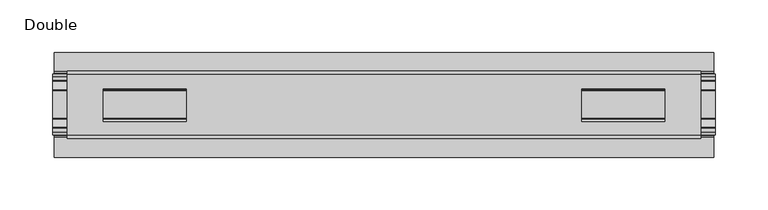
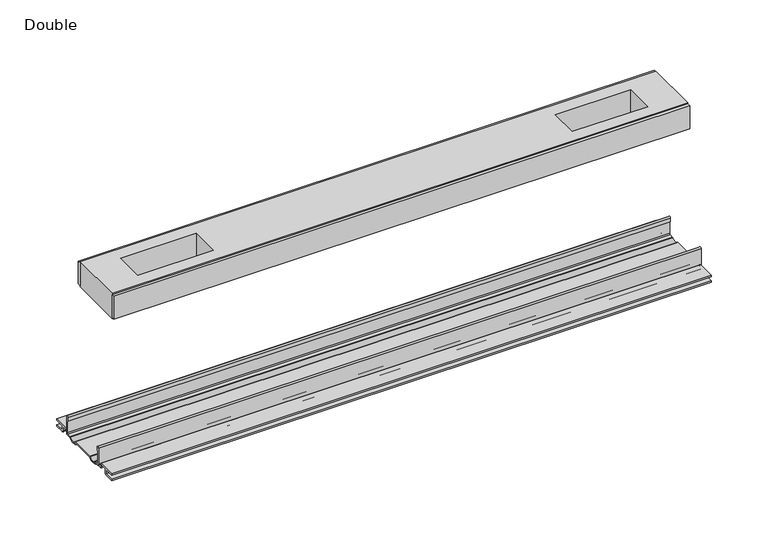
"""IFC4 building model written with IfcOpenShell, lengths in millimetres: proxy geometry, Frame-Teknion-FHCRA-Horizontal_Rail-R2022 : Double."""

from ifc_helpers import new_model, si_unit, point, frame, frame_2d, origin, place, context, project, spatial, polyline, circle_curve, trimmed, segment, composite_curve, outline, extrude, source, transform, mapped, element, save


def double_d49f8474(model_context):
    return source(origin(), model_context, "Body", "SweptSolid", [
        extrude(outline(polyline([(301.5615091, -29.0068005), (301.5615091, -32.1817997), (-301.5615091, -32.1817997), (-301.5615091, -29.0068005), (301.5615091, -29.0068005)])), frame((0.0, 0.0, 149.8401622), z_axis=(0.0, 0.0, 1.0), x_axis=(1.0, 0.0, 0.0)), (0.0, 0.0, 1.0), 25.3999939),
        extrude(outline(polyline([(301.5615091, 32.1817997), (301.5615091, 29.0068005), (-301.5615091, 29.0068005), (-301.5615091, 32.1817997), (301.5615091, 32.1817997)])), frame((0.0, 0.0, 149.8401622), z_axis=(0.0, 0.0, 1.0), x_axis=(1.0, 0.0, 0.0)), (0.0, 0.0, 1.0), 25.3999939),
        extrude(outline(polyline([(301.5615091, 29.0068005), (301.5615091, -29.0068005), (-301.5615091, -29.0068005), (-301.5615091, 29.0068005), (301.5615091, 29.0068005)]), holes=[polyline([(267.1444965, 15.1130038), (188.0996847, 15.1130038), (188.0996847, -15.875003), (267.1444965, -15.875003), (267.1444965, 15.1130038)]), polyline([(-267.1444965, 15.1130038), (-267.1444965, -15.875003), (-188.0996847, -15.875003), (-188.0996847, 15.1130038), (-267.1444965, 15.1130038)])]), frame((0.0, 0.0, 148.4185847), z_axis=(0.0, 0.0, 1.0), x_axis=(1.0, 0.0, 0.0)), (0.0, 0.0, 1.0), 27.9999988),
        extrude(outline(composite_curve([segment(polyline([(-28.8162961, -7.7516037), (-28.8162961, 9.8607558)]), True, "CONTINUOUS"), segment(trimmed(circle_curve(frame_2d((-27.5970982, 9.8607558)), 1.2191979), [point((-28.8162961, 9.8607558))], [point((-26.3779003, 9.8607558))], False, "CARTESIAN"), True, "CONTINUOUS"), segment(polyline([(-26.3779003, 9.8607558), (-26.3779003, 5.9999563), (-27.6580769, 5.9999563), (-27.6580769, -7.7516037)]), True, "CONTINUOUS"), segment(trimmed(circle_curve(frame_2d((-26.6420561, -7.7516037)), 1.0160208), [point((-27.6580769, -7.7516037))], [point((-26.6485732, -8.7676036))], True, "CARTESIAN"), True, "CONTINUOUS"), segment(polyline([(-26.6485732, -8.7676036), (-22.7056226, -8.7676036), (-21.7922609, -8.968753)]), True, "CONTINUOUS"), segment(trimmed(circle_curve(frame_2d((-17.7673021, -6.1259382)), 4.9276657), [point((-21.7922609, -8.968753))], [point((-13.7423434, -8.968753))], True, "CARTESIAN"), True, "CONTINUOUS"), segment(polyline([(-13.7423434, -8.968753), (-12.8289726, -8.7676036), (13.2099722, -8.7676036), (14.123343, -8.968753)]), True, "CONTINUOUS"), segment(trimmed(circle_curve(frame_2d((18.1483018, -6.1259382)), 4.9276657), [point((14.123343, -8.968753))], [point((22.1732605, -8.968753))], True, "CARTESIAN"), True, "CONTINUOUS"), segment(polyline([(22.1732605, -8.968753), (23.0866222, -8.7676036), (27.0295728, -8.7676036)]), True, "CONTINUOUS"), segment(trimmed(circle_curve(frame_2d((27.0230557, -7.7516037)), 1.0160208), [point((27.0295728, -8.7676036))], [point((28.0390765, -7.7516037))], True, "CARTESIAN"), True, "CONTINUOUS"), segment(polyline([(28.0390765, -7.7516037), (28.0390765, 5.9999563), (26.7588999, 5.9999563), (26.7588999, 9.8607558)]), True, "CONTINUOUS"), segment(trimmed(circle_curve(frame_2d((27.9780978, 9.8607558)), 1.2191979), [point((26.7588999, 9.8607558))], [point((29.1972958, 9.8607558))], False, "CARTESIAN"), True, "CONTINUOUS"), segment(polyline([(29.1972958, 9.8607558), (29.1972958, -7.7516037)]), True, "CONTINUOUS"), segment(trimmed(circle_curve(frame_2d((27.0230557, -7.7516037)), 2.17424), [point((29.1972958, -7.7516037))], [point((27.0230557, -9.9258438))], False, "CARTESIAN"), True, "CONTINUOUS"), segment(polyline([(27.0230557, -9.9258438), (22.732069, -9.9258438)]), True, "CONTINUOUS"), segment(trimmed(circle_curve(frame_2d((18.1516545, -6.4800016)), 5.7318431), [point((22.732069, -9.9258438))], [point((13.57124, -9.9258438))], False, "CARTESIAN"), True, "CONTINUOUS"), segment(polyline([(13.57124, -9.9258438), (-13.1902404, -9.9258438)]), True, "CONTINUOUS"), segment(trimmed(circle_curve(frame_2d((-17.7706549, -6.4800016)), 5.7318431), [point((-13.1902404, -9.9258438))], [point((-22.3510694, -9.9258438))], False, "CARTESIAN"), True, "CONTINUOUS"), segment(polyline([(-22.3510694, -9.9258438), (-26.6420561, -9.9258438)]), True, "CONTINUOUS"), segment(trimmed(circle_curve(frame_2d((-26.6420561, -7.7516037)), 2.17424), [point((-26.6420561, -9.9258438))], [point((-28.8162961, -7.7516037))], False, "CARTESIAN"), True, "CONTINUOUS")], self_intersect=False)), frame((-315.6204, 0.0, 0.0), z_axis=(1.0, 0.0, 0.0), x_axis=(0.0, 1.0, 0.0)), (0.0, 0.0, 1.0), 631.2408),
        extrude(outline(composite_curve([segment(polyline([(-50.2668422, -13.9898438), (-50.2240211, -12.3388438), (-39.7827507, -12.3388438), (-39.7827507, -7.766844), (-50.2240211, -7.766844), (-50.2668422, -6.1158439), (-31.1784975, -6.1158439)]), True, "CONTINUOUS"), segment(trimmed(circle_curve(frame_2d((-31.1784975, -7.6398436)), 1.5239997), [point((-31.1784975, -6.1158439))], [point((-29.6544978, -7.6398436))], False, "CARTESIAN"), True, "CONTINUOUS"), segment(polyline([(-29.6544978, -7.6398436), (-29.6544978, -9.9258438), (-23.1058344, -9.9258438)]), True, "CONTINUOUS"), segment(trimmed(circle_curve(frame_2d((-17.7673021, -5.2268471)), 7.1119966), [point((-23.1058344, -9.9258438))], [point((-12.4287699, -9.9258438))], True, "CARTESIAN"), True, "CONTINUOUS"), segment(polyline([(-12.4287699, -9.9258438), (12.8097695, -9.9258438)]), True, "CONTINUOUS"), segment(trimmed(circle_curve(frame_2d((18.1483018, -5.2268471)), 7.1119966), [point((12.8097695, -9.9258438))], [point((23.486834, -9.9258438))], True, "CARTESIAN"), True, "CONTINUOUS"), segment(polyline([(23.486834, -9.9258438), (30.0354975, -9.9258438), (30.0354975, -7.7656583)]), True, "CONTINUOUS"), segment(trimmed(circle_curve(frame_2d((31.6864982, -7.7656583)), 1.6510007), [point((30.0354975, -7.7656583))], [point((31.6239218, -6.1158439))], False, "CARTESIAN"), True, "CONTINUOUS"), segment(polyline([(31.6239218, -6.1158439), (50.00625, -6.1158439), (50.00625, -7.766844), (40.1637503, -7.766844), (40.1637503, -12.3388438), (50.00625, -12.3388438), (50.00625, -13.9898438), (40.0367518, -13.9898438)]), True, "CONTINUOUS"), segment(trimmed(circle_curve(frame_2d((40.0367518, -12.4658438)), 1.524), [point((40.0367518, -13.9898438))], [point((38.5127519, -12.4658438))], False, "CARTESIAN"), True, "CONTINUOUS"), segment(polyline([(38.5127519, -12.4658438), (38.5127519, -7.766844), (31.686497, -7.766844), (31.686497, -10.0528438)]), True, "CONTINUOUS"), segment(trimmed(circle_curve(frame_2d((30.1624971, -10.0528438)), 1.524), [point((31.686497, -10.0528438))], [point((30.1624971, -11.5768438))], False, "CARTESIAN"), True, "CONTINUOUS"), segment(polyline([(30.1624971, -11.5768438), (23.6563549, -11.5768438)]), True, "CONTINUOUS"), segment(trimmed(circle_curve(frame_2d((18.1483018, -6.4968436)), 7.4930002), [point((23.6563549, -11.5768438))], [point((12.8904968, -11.8354331))], False, "CARTESIAN"), True, "CONTINUOUS"), segment(polyline([(12.8904968, -11.8354331), (-12.5094972, -11.8354331)]), True, "CONTINUOUS"), segment(trimmed(circle_curve(frame_2d((-17.7673021, -6.4968436)), 7.4930002), [point((-12.5094972, -11.8354331))], [point((-23.2753553, -11.5768438))], False, "CARTESIAN"), True, "CONTINUOUS"), segment(polyline([(-23.2753553, -11.5768438), (-29.7814974, -11.5768438)]), True, "CONTINUOUS"), segment(trimmed(circle_curve(frame_2d((-29.7814974, -10.0528438)), 1.524), [point((-29.7814974, -11.5768438))], [point((-31.3054974, -10.0528438))], False, "CARTESIAN"), True, "CONTINUOUS"), segment(polyline([(-31.3054974, -10.0528438), (-31.3054974, -7.766844), (-38.1317522, -7.766844), (-38.1317522, -12.4658438)]), True, "CONTINUOUS"), segment(trimmed(circle_curve(frame_2d((-39.6557522, -12.4658438)), 1.524), [point((-38.1317522, -12.4658438))], [point((-39.6557522, -13.9898438))], False, "CARTESIAN"), True, "CONTINUOUS"), segment(polyline([(-39.6557522, -13.9898438), (-50.2668422, -13.9898438)]), True, "CONTINUOUS")], self_intersect=False)), frame((-313.9694, 0.0, 0.0), z_axis=(1.0, 0.0, 0.0), x_axis=(0.0, 1.0, 0.0)), (0.0, 0.0, 1.0), 627.9388),
    ])


if __name__ == "__main__":
    model = new_model("IFC4")
    model_context = context("Model", 3, world=origin())
    ifc_project = project(units=[si_unit("LENGTHUNIT", "METRE", prefix="MILLI")], contexts=[model_context])
    site = spatial("IfcSite", under=ifc_project)
    building = spatial("IfcBuilding", under=site)
    placement = place(None, origin())
    double_shape = double_d49f8474(model_context)
    element("IfcBuildingElementProxy", 1, Name="Frame-Teknion-FHCRA-Horizontal_Rail-R2022 : Double", ObjectType="Frame-Teknion-FHCRA-Horizontal_Rail-R2022 : Double", at=placement, inside=building, context=model_context, shape_type="MappedRepresentation", body=[
        mapped(double_shape, transform((0.0, 0.0, 0.0), x_axis=(1.0, 0.0, 0.0), y_axis=(0.0, 1.0, 0.0), z_axis=(0.0, 0.0, 1.0))),
    ])
    save(model, "model.ifc")
